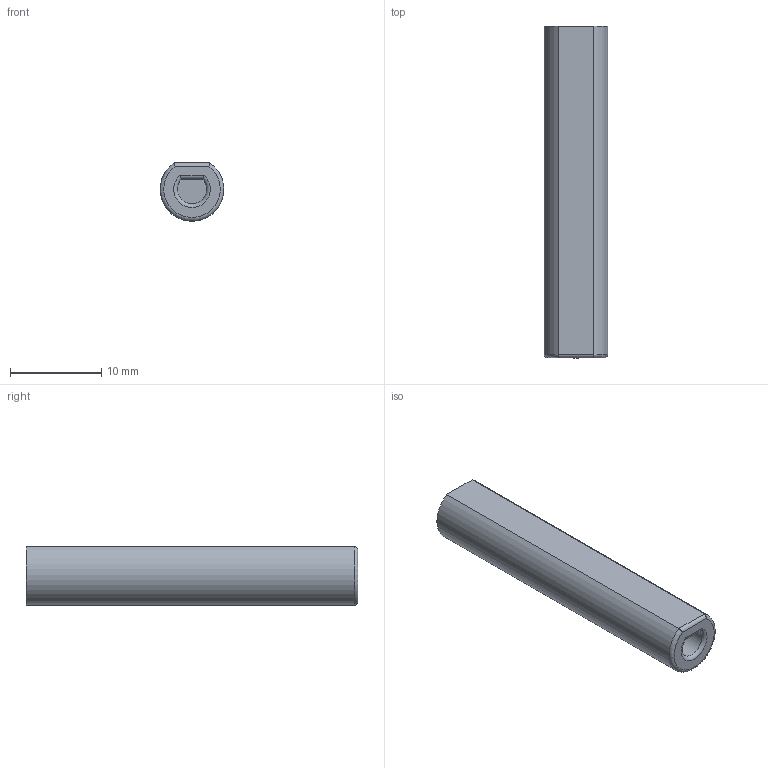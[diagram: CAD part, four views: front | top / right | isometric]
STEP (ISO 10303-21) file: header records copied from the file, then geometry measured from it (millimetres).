
FILE_DESCRIPTION(('Open CASCADE Model'),'2;1');
FILE_NAME('Open CASCADE Shape Model','2026-11-03T00:01:15',('Author'),( 'Open CASCADE'),'Open CASCADE STEP processor 8.0','build123d', 'Unknown');
FILE_SCHEMA(('AUTOMOTIVE_DESIGN { 1 0 10303 214 1 1 1 1 }'));
Length unit declared in the file: millimetre
Products named in the file (2): =>[0:1:1:2]; COMPOUND
Assembly tree (1 placements, depth 2):
  =>[0:1:1:2]
    COMPOUND
Bounding box: 6.99 x 36.41 x 6.4 mm (x, y, z)
Volume: 1241.1 mm3; surface area: 1005.1 mm2
Topology: 1 solids, 1 shells, 13 faces, 23 edges, 14 vertices
Faces by surface type: plane 6, cylinder 5, torus 2
Full cylindrical faces by diameter (mm): 2.5 x1
Entity records: 772 total; most frequent: CARTESIAN_POINT 284, DIRECTION 81, ORIENTED_EDGE 46, PCURVE 46, DEFINITIONAL_REPRESENTATION 46, LINE 31, VECTOR 31, B_SPLINE_CURVE_WITH_KNOTS 24
